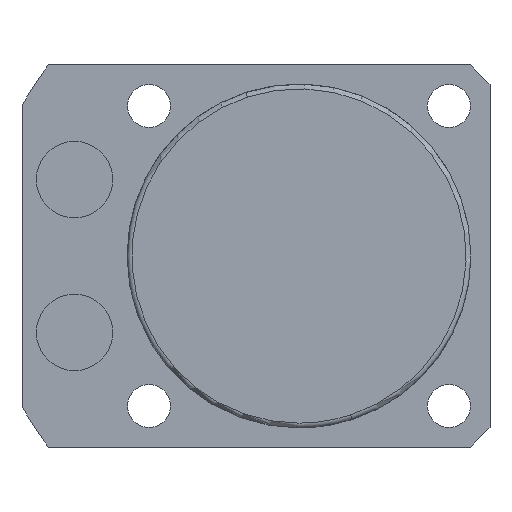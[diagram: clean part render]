
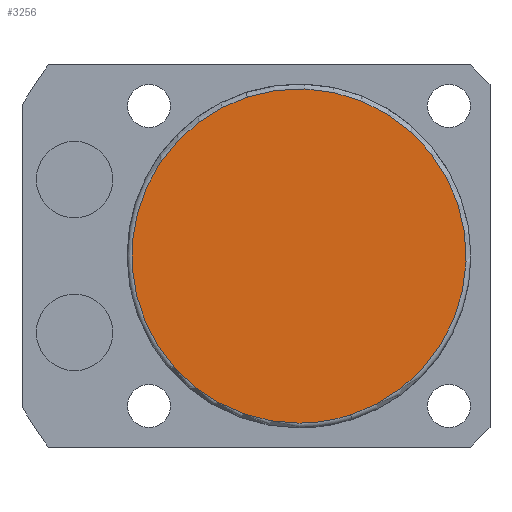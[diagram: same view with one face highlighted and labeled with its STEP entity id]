
A CAD part, front view. The second image highlights one B-rep face of the part: STEP entity #3256.
In plain terms, the highlighted planar face has unit normal (0, -1, 0).
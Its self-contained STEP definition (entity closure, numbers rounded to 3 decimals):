
#3222=CARTESIAN_POINT('',(0.0,-70.5,-17.5));
#3223=VERTEX_POINT('',#3222);
#3224=CARTESIAN_POINT('',(5.408,-70.5,-16.643));
#3225=VERTEX_POINT('',#3224);
#3226=CARTESIAN_POINT('',(0.0,-70.5,0.0));
#3227=DIRECTION('',(0.0,-1.0,0.0));
#3228=DIRECTION('',(0.0,0.0,-1.0));
#3229=AXIS2_PLACEMENT_3D('',#3226,#3227,#3228);
#3230=CIRCLE('',#3229,17.5);
#3231=EDGE_CURVE('no 3892',#3223,#3225,#3230,.T.);
#3232=ORIENTED_EDGE('',*,*,#3231,.T.);
#3233=CARTESIAN_POINT('',(-5.408,-70.5,16.643));
#3234=VERTEX_POINT('',#3233);
#3235=CARTESIAN_POINT('',(0.0,-70.5,0.0));
#3236=DIRECTION('',(0.0,-1.0,0.0));
#3237=DIRECTION('',(0.0,0.0,-1.0));
#3238=AXIS2_PLACEMENT_3D('',#3235,#3236,#3237);
#3239=CIRCLE('',#3238,17.5);
#3240=EDGE_CURVE('no 3898',#3225,#3234,#3239,.T.);
#3241=ORIENTED_EDGE('',*,*,#3240,.T.);
#3242=CARTESIAN_POINT('',(0.0,-70.5,0.0));
#3243=DIRECTION('',(0.0,-1.0,0.0));
#3244=DIRECTION('',(0.0,0.0,-1.0));
#3245=AXIS2_PLACEMENT_3D('',#3242,#3243,#3244);
#3246=CIRCLE('',#3245,17.5);
#3247=EDGE_CURVE('no 3902',#3234,#3223,#3246,.T.);
#3248=ORIENTED_EDGE('',*,*,#3247,.T.);
#3249=EDGE_LOOP('',(#3232,#3241,#3248));
#3250=FACE_OUTER_BOUND('',#3249,.T.);
#3251=CARTESIAN_POINT('',(0.0,-70.5,0.0));
#3252=DIRECTION('',(0.0,-1.0,0.0));
#3253=DIRECTION('',(0.0,0.0,-1.0));
#3254=AXIS2_PLACEMENT_3D('',#3251,#3252,#3253);
#3255=PLANE('',#3254);
#3256=ADVANCED_FACE('no 3883',(#3250),#3255,.T.);
